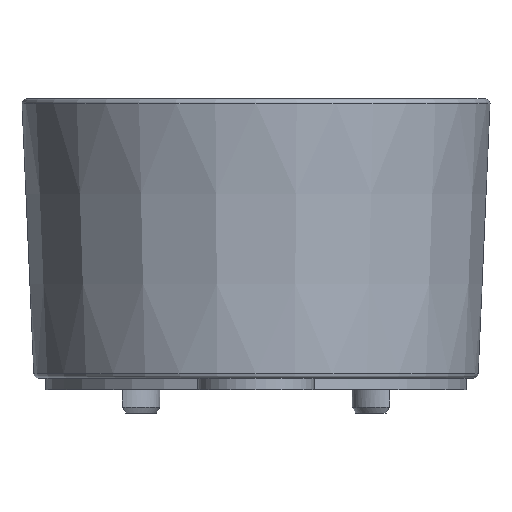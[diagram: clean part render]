
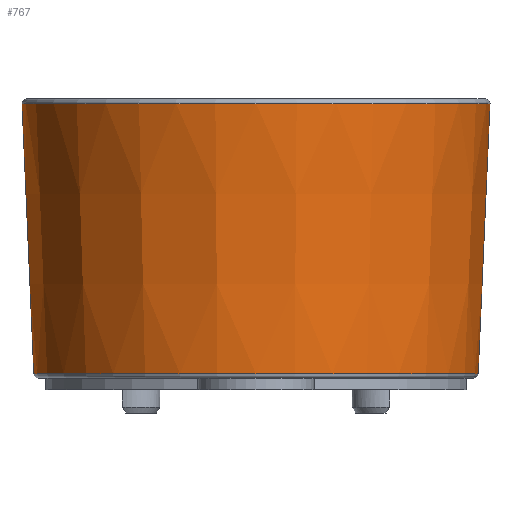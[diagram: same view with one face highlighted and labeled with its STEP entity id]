
A CAD part, front view. The second image highlights one B-rep face of the part: STEP entity #767.
In plain terms, the highlighted conical face has half-angle 2.5 degrees and reference radius 7.599 mm.
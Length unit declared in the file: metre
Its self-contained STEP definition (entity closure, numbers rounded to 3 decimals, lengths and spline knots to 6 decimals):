
#767=ADVANCED_FACE('',(#2074,#2075),#2076,.T.);
#1127=EDGE_CURVE('',#2613,#2613,#2614,.T.);
#1463=EDGE_CURVE('',#3077,#3077,#3078,.T.);
#2074=FACE_OUTER_BOUND('',#4381,.T.);
#2075=FACE_BOUND('',#4382,.T.);
#2076=CONICAL_SURFACE('',#4383,0.007599,0.044);
#2613=VERTEX_POINT('',#6408);
#2614=CIRCLE('',#6409,0.007642);
#3077=VERTEX_POINT('',#7760);
#3078=CIRCLE('',#7761,0.008048);
#4381=EDGE_LOOP('',(#9757));
#4382=EDGE_LOOP('',(#9758));
#4383=AXIS2_PLACEMENT_3D('',#9759,#9760,#9761);
#6408=CARTESIAN_POINT('',(-0.007642,0.,0.000143));
#6409=AXIS2_PLACEMENT_3D('',#10594,#10595,#10596);
#7760=CARTESIAN_POINT('',(-0.008048,0.,0.009443));
#7761=AXIS2_PLACEMENT_3D('',#10705,#10706,#10707);
#9757=ORIENTED_EDGE('',*,*,#1463,.F.);
#9758=ORIENTED_EDGE('',*,*,#1127,.T.);
#9759=CARTESIAN_POINT('',(0.,0.,-0.000847));
#9760=DIRECTION('',(0.,0.,1.0));
#9761=DIRECTION('',(1.0,0.,0.));
#10594=CARTESIAN_POINT('',(0.,0.,0.000143));
#10595=DIRECTION('',(0.0,0.0,1.0));
#10596=DIRECTION('',(-1.0,0.,0.0));
#10705=CARTESIAN_POINT('',(0.,0.,0.009443));
#10706=DIRECTION('',(0.0,0.0,1.0));
#10707=DIRECTION('',(-1.0,0.,0.0));
